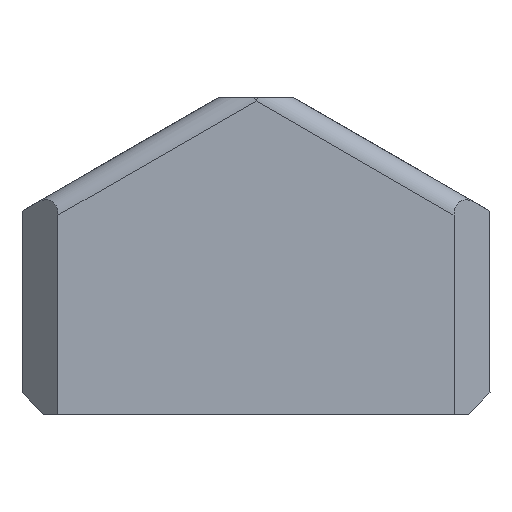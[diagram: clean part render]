
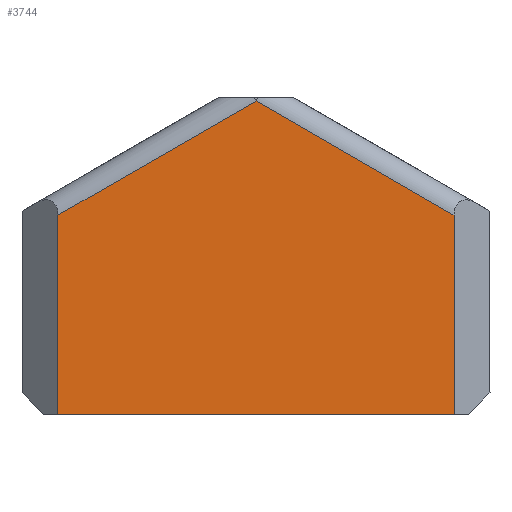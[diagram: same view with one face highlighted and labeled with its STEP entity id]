
A CAD part, front view. The second image highlights one B-rep face of the part: STEP entity #3744.
In plain terms, the highlighted planar face has unit normal (0, -1, 0).
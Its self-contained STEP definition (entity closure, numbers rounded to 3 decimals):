
#161 = ORIENTED_EDGE ( 'NONE', *, *, #2620, .T. ) ;
#220 = EDGE_CURVE ( 'NONE', #5244, #2783, #6464, .T. ) ;
#318 = CARTESIAN_POINT ( 'NONE',  ( -114.541, -189.933, 0. ) ) ;
#344 = LINE ( 'NONE', #5197, #5492 ) ;
#367 = VECTOR ( 'NONE', #3433, 1000. ) ;
#631 = PLANE ( 'NONE',  #6013 ) ;
#780 = VECTOR ( 'NONE', #1008, 1000. ) ;
#1008 = DIRECTION ( 'NONE',  ( 0., 0., -1. ) ) ;
#1009 = LINE ( 'NONE', #4037, #2224 ) ;
#1109 = EDGE_CURVE ( 'NONE', #4812, #5244, #1009, .T. ) ;
#1159 = CARTESIAN_POINT ( 'NONE',  ( -59.541, -189.933, 0. ) ) ;
#1179 = DIRECTION ( 'NONE',  ( 0., 1., 0. ) ) ;
#1529 = CARTESIAN_POINT ( 'NONE',  ( -114.541, -189.933, 27.659 ) ) ;
#1606 = ORIENTED_EDGE ( 'NONE', *, *, #1109, .T. ) ;
#1861 = ORIENTED_EDGE ( 'NONE', *, *, #3441, .F. ) ;
#2224 = VECTOR ( 'NONE', #2397, 1000. ) ;
#2397 = DIRECTION ( 'NONE',  ( 1., 0., 0. ) ) ;
#2565 = VECTOR ( 'NONE', #4698, 1000. ) ;
#2620 = EDGE_CURVE ( 'NONE', #3051, #4812, #4725, .T. ) ;
#2783 = VERTEX_POINT ( 'NONE', #6359 ) ;
#2955 = LINE ( 'NONE', #6463, #367 ) ;
#3051 = VERTEX_POINT ( 'NONE', #1529 ) ;
#3433 = DIRECTION ( 'NONE',  ( 0.866, 0., -0.5 ) ) ;
#3441 = EDGE_CURVE ( 'NONE', #5605, #2783, #2955, .T. ) ;
#3744 = ADVANCED_FACE ( 'NONE', ( #6642 ), #631, .F. ) ;
#4037 = CARTESIAN_POINT ( 'NONE',  ( -87.041, -189.933, 0. ) ) ;
#4109 = CARTESIAN_POINT ( 'NONE',  ( -114.541, -189.933, 13.829 ) ) ;
#4278 = CARTESIAN_POINT ( 'NONE',  ( -119.541, -189.933, 47. ) ) ;
#4412 = EDGE_LOOP ( 'NONE', ( #4546, #161, #1606, #6061, #1861 ) ) ;
#4413 = CARTESIAN_POINT ( 'NONE',  ( -59.541, -189.933, 13.829 ) ) ;
#4546 = ORIENTED_EDGE ( 'NONE', *, *, #5715, .T. ) ;
#4616 = CARTESIAN_POINT ( 'NONE',  ( -87.041, -189.933, 43.536 ) ) ;
#4682 = DIRECTION ( 'NONE',  ( -0.866, 0., -0.5 ) ) ;
#4698 = DIRECTION ( 'NONE',  ( 0., 0., 1. ) ) ;
#4725 = LINE ( 'NONE', #4109, #780 ) ;
#4767 = DIRECTION ( 'NONE',  ( 1., 0., 0. ) ) ;
#4812 = VERTEX_POINT ( 'NONE', #318 ) ;
#5197 = CARTESIAN_POINT ( 'NONE',  ( -98.269, -189.933, 37.054 ) ) ;
#5244 = VERTEX_POINT ( 'NONE', #1159 ) ;
#5492 = VECTOR ( 'NONE', #4682, 1000. ) ;
#5605 = VERTEX_POINT ( 'NONE', #4616 ) ;
#5715 = EDGE_CURVE ( 'NONE', #5605, #3051, #344, .T. ) ;
#6013 = AXIS2_PLACEMENT_3D ( 'NONE', #4278, #1179, #4767 ) ;
#6061 = ORIENTED_EDGE ( 'NONE', *, *, #220, .T. ) ;
#6359 = CARTESIAN_POINT ( 'NONE',  ( -59.541, -189.933, 27.659 ) ) ;
#6463 = CARTESIAN_POINT ( 'NONE',  ( -75.814, -189.933, 37.054 ) ) ;
#6464 = LINE ( 'NONE', #4413, #2565 ) ;
#6642 = FACE_OUTER_BOUND ( 'NONE', #4412, .T. ) ;
